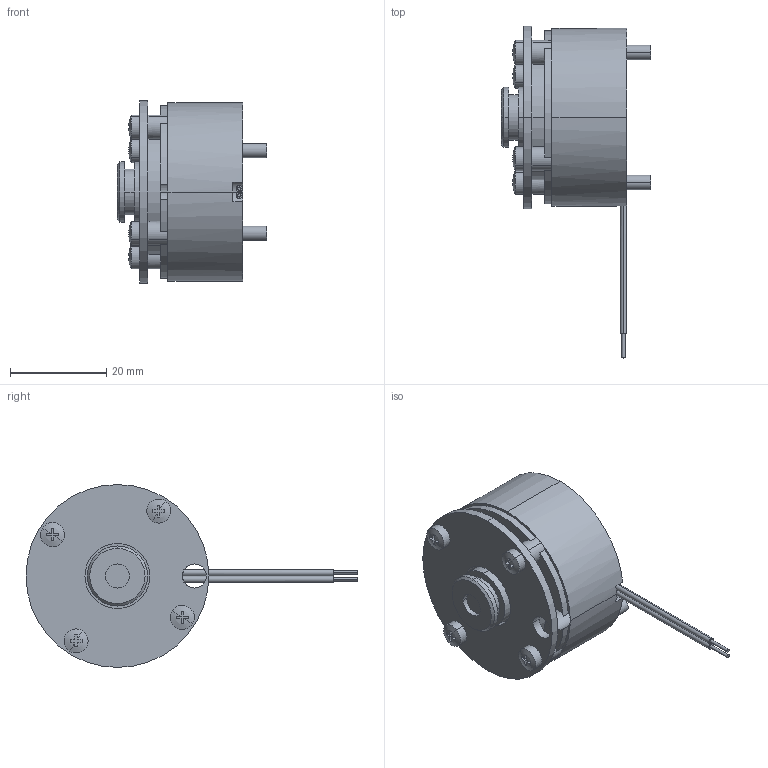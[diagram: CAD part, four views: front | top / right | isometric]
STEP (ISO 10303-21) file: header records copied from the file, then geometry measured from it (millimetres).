
FILE_DESCRIPTION((''),'2;1');
FILE_NAME('E38_GR42','2005-08-31T',('Andrej.Schneider'),(''),'PRO/ENGINEER BY PARAMETRIC TECHNOLOGY CORPORATION, 2003490','PRO/ENGINEER BY PARAMETRIC TECHNOLOGY CORPORATION, 2003490','');
FILE_SCHEMA(('AUTOMOTIVE_DESIGN_CC2 { 1 2 10303 214 -1 1 5 2 }'));
Length unit declared in the file: millimetre
Products named in the file (1): E38_GR42
Bounding box: 31 x 69 x 38 mm (x, y, z)
Volume: 20949.8 mm3; surface area: 7105.2 mm2
Topology: 1 solids, 1 shells, 142 faces, 366 edges, 236 vertices
Faces by surface type: plane 77, cylinder 55, sphere 8, cone 2
Entity records: 4647 total; most frequent: DIRECTION 838, CARTESIAN_POINT 782, ORIENTED_EDGE 732, EDGE_CURVE 366, AXIS2_PLACEMENT_3D 336, VERTEX_POINT 236, CIRCLE 194, COLOUR_RGB 189
